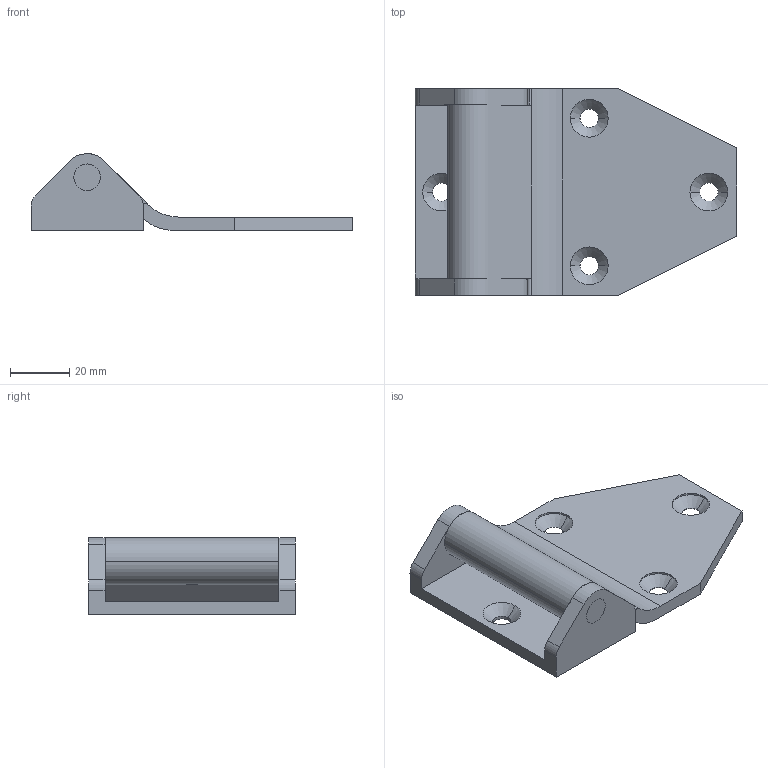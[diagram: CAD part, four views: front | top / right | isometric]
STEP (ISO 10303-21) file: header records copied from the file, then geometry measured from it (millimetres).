
FILE_DESCRIPTION (( 'STEP AP203' ), '1' );
FILE_NAME ('XG02-122.STEP', '2023-12-22T10:02:50', ( '' ), ( '' ), 'SwSTEP 2.0', 'SolidWorks 2020', '' );
FILE_SCHEMA (( 'CONFIG_CONTROL_DESIGN' ));
Length unit declared in the file: millimetre
Products named in the file (1): XG02-122
Bounding box: 109 x 70 x 25.99 mm (x, y, z)
Volume: 47222.8 mm3; surface area: 27305.6 mm2
Topology: 3 solids, 3 shells, 132 faces, 339 edges, 214 vertices
Faces by surface type: cylinder 63, plane 45, torus 12, cone 12
Entity records: 4407 total; most frequent: CARTESIAN_POINT 963, DIRECTION 752, ORIENTED_EDGE 678, EDGE_CURVE 339, AXIS2_PLACEMENT_3D 285, VERTEX_POINT 214, VECTOR 182, LINE 182
